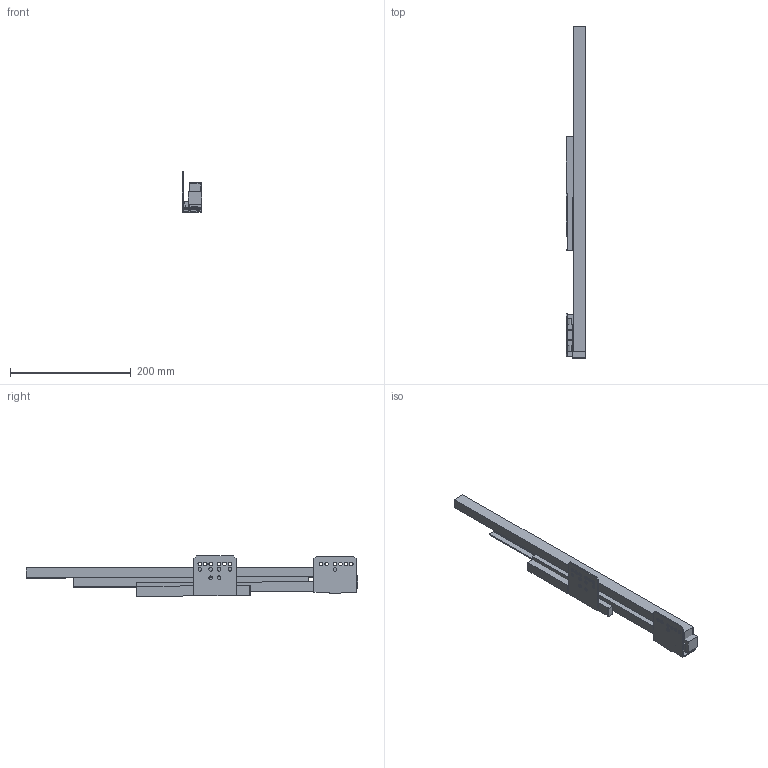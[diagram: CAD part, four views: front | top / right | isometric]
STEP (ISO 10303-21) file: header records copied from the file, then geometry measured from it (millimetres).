
FILE_DESCRIPTION (( 'STEP AP214' ), '1' );
FILE_NAME ('_IMOS Dynamic-XP VA 40kg NL550 LI.step', '2010-07-07T08:06:18', ( 'grass' ), ( '' ), 'SwSTEP 2.0', 'SolidWorks 2010', '' );
FILE_SCHEMA (( 'AUTOMOTIVE_DESIGN' ));
Length unit declared in the file: millimetre
Products named in the file (1): _IMOS Dynamic-XP VA 40kg NL550 LI
Bounding box: 32.04 x 549.89 x 66.67 mm (x, y, z)
Volume: 435739.5 mm3; surface area: 154101.3 mm2
Topology: 7 solids, 7 shells, 151 faces, 411 edges, 274 vertices
Faces by surface type: plane 111, cylinder 40
Entity records: 4913 total; most frequent: CARTESIAN_POINT 837, ORIENTED_EDGE 822, DIRECTION 795, EDGE_CURVE 411, VECTOR 331, LINE 331, VERTEX_POINT 274, AXIS2_PLACEMENT_3D 232
